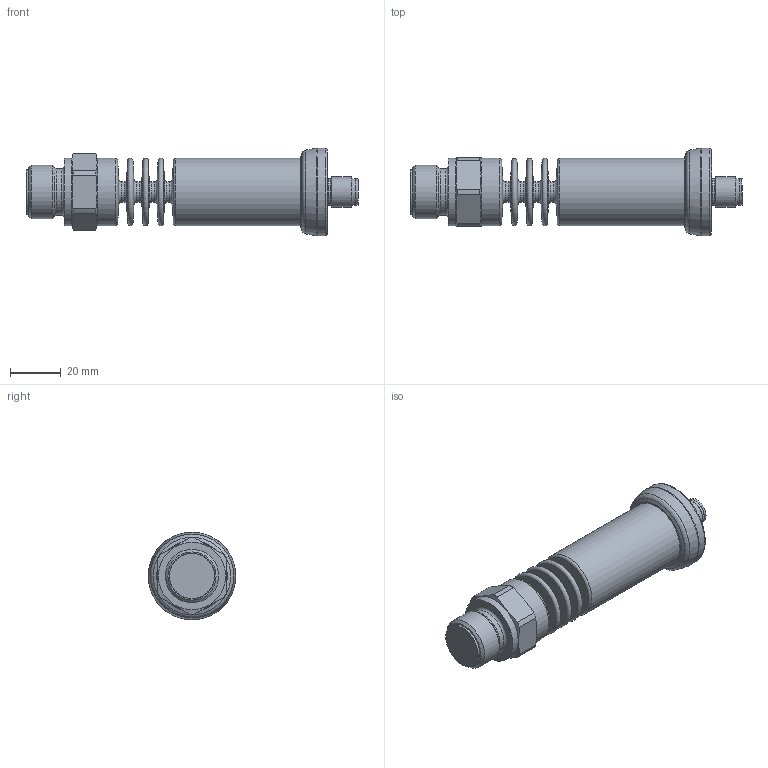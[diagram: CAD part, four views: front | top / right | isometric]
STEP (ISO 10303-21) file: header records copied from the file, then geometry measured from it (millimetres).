
FILE_DESCRIPTION(/* description */ (''),/* implementation_level */ '2;1');
FILE_NAME(/* name */ 'C:\Users\cz1166\Documents\STEP\DMK331P-50x-xxxx-x-x-M10-Z00-1-x-x-200.stp',/* time_stamp */ '2020-10-01T09:44:40+02:00',/* author */ ('cz1166'),/* organization */ (''),/* preprocessor_version */ 'ST-DEVELOPER v16.5',/* originating_system */ 'Autodesk Inventor 2017',/* authorisation */ '');
FILE_SCHEMA (('AUTOMOTIVE_DESIGN { 1 0 10303 214 3 1 1 }'));
Length unit declared in the file: millimetre
Products named in the file (1): DMK331P-50x-xxxx-x-x-M10-Z00-1-x-x-200
Bounding box: 130.63 x 34.5 x 34.5 mm (x, y, z)
Volume: 60049.4 mm3; surface area: 14807.4 mm2
Topology: 1 solids, 1 shells, 75 faces, 162 edges, 96 vertices
Faces by surface type: cylinder 23, torus 21, cone 16, plane 15
Full cylindrical faces by diameter (mm): 8 x4, 10.4 x1, 10.6 x2, 12 x1, 17.7 x1, 18 x1, 18.4 x1, 20.955 x1, 21.4 x1, 26.5 x3, 34.5 x1
Entity records: 1781 total; most frequent: DIRECTION 316, CARTESIAN_POINT 285, ORIENTED_EDGE 200, AXIS2_PLACEMENT_3D 152, EDGE_LOOP 133, EDGE_CURVE 100, VERTEX_POINT 85, CIRCLE 76
